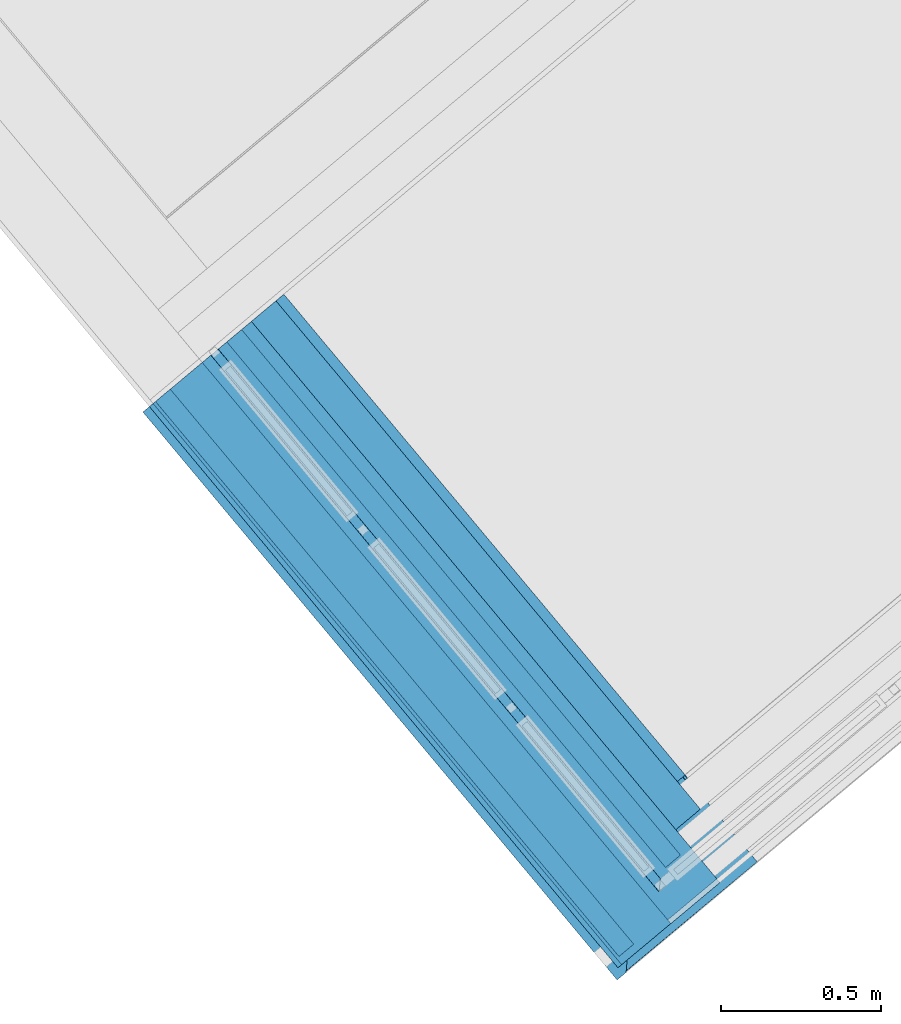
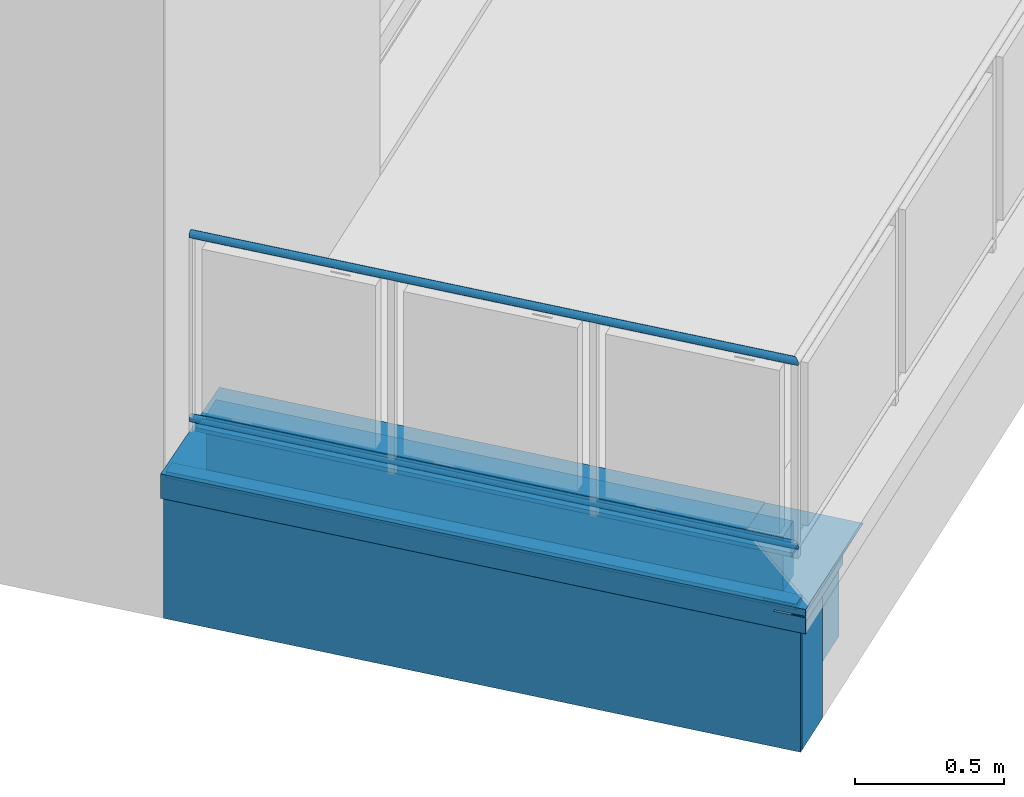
# One storey, part 16 of 53: 11 building element parts, 2 elements without a shape of their own.
"""IFC4 building model written with IfcOpenShell, lengths in metres."""

from ifc_helpers import new_model, entity, si_unit, converted_unit, derived_unit, direction, frame, origin_with_axes, place, context, subcontext, project, spatial, polygons, material, type_object, element, aggregate, save


model = new_model("IFC4")

# Units and contexts
model_context = context("Model", 3, precision=1e-05, world=origin_with_axes(), true_north=direction((0.0, 1.0)))
body_context = subcontext(model_context, "Body", "Model", "MODEL_VIEW")
ifc_project = project(units=[si_unit("LENGTHUNIT", "METRE"), si_unit("AREAUNIT", "SQUARE_METRE"), si_unit("VOLUMEUNIT", "CUBIC_METRE"), converted_unit("PLANEANGLEUNIT", "DEGREE", entity("IfcPlaneAngleMeasure", 0.0174532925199), si_unit("PLANEANGLEUNIT", "RADIAN"), dimensions=[0, 0, 0, 0, 0, 0, 0]), converted_unit("TIMEUNIT", "Year", entity("IfcTimeMeasure", 31556926.0), si_unit("TIMEUNIT", "SECOND"), dimensions=[0, 0, 1, 0, 0, 0, 0]), si_unit("MASSUNIT", "GRAM", prefix="KILO"), si_unit("THERMODYNAMICTEMPERATUREUNIT", "DEGREE_CELSIUS"), si_unit("LUMINOUSINTENSITYUNIT", "LUMEN"), si_unit("ENERGYUNIT", "JOULE", prefix="MEGA"), derived_unit("THERMALCONDUCTANCEUNIT", [(si_unit("POWERUNIT", "WATT"), 1), (si_unit("LENGTHUNIT", "METRE"), -1), (si_unit("THERMODYNAMICTEMPERATUREUNIT", "KELVIN"), -1)]), derived_unit("SPECIFICHEATCAPACITYUNIT", [(si_unit("ENERGYUNIT", "JOULE"), 1), (si_unit("MASSUNIT", "GRAM", prefix="KILO"), -1), (si_unit("THERMODYNAMICTEMPERATUREUNIT", "KELVIN"), -1)]), derived_unit("MASSDENSITYUNIT", [(si_unit("MASSUNIT", "GRAM", prefix="KILO"), 1), (si_unit("VOLUMEUNIT", "CUBIC_METRE"), -1)])], contexts=[model_context])

# Site, building, storey
site_placement = place(None, frame((-0.00153261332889, -0.00661245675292, 0.0), z_axis=(0.0, 0.0, 1.0), x_axis=(1.0, 0.0, 0.0)))
site = spatial("IfcSite", under=ifc_project, at=site_placement, Name="Gelände", CompositionType="ELEMENT")
building_placement = place(site_placement, origin_with_axes())
building = spatial("IfcBuilding", under=site, at=building_placement, Name="Gebäude", CompositionType="ELEMENT")
storey_placement = place(building_placement, frame((0.0, 0.0, 2.74), z_axis=(0.0, 0.0, 1.0), x_axis=(1.0, 0.0, 0.0)))
storey = spatial("IfcBuildingStorey", under=building, at=storey_placement, Name="OG1", CompositionType="ELEMENT", Elevation=2.74)

# Wall, building element parts
wall_type = type_object("IfcWallType", Name="Balkon Dämmung runter 574 x 610", PredefinedType="NOTDEFINED")
wall_placement = place(storey_placement, frame((-0.869246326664, 8.34153645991, -0.2), z_axis=(0.0, 0.0, 1.0), x_axis=(0.640952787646, -0.7675803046, 0.0)))
wall = element("IfcWall", 1, at=wall_placement, inside=storey, type_object=wall_type, Name="Wand-004", PredefinedType="NOTDEFINED")
ifc_material_1 = material(Name="Stahl")
building_element_part_1_placement = place(wall_placement, origin_with_axes())
building_element_part_1 = element("IfcBuildingElementPart", 2, at=building_element_part_1_placement, material=ifc_material_1, Name="Stahl", PredefinedType="NOTDEFINED", context=body_context, shape_type="Tessellation", body=[
    polygons([(2.31050672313, -0.241452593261, 0.608602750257), (2.3105274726, -0.241471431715, 0.581921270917), (2.31052209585, -0.24015106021, 0.581921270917), (2.31050652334, -0.240152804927, 0.608602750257), (2.31050872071, -0.24148595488, 0.575979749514), (2.30921429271, -0.241485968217, 0.575979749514), (2.25789575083, -0.241486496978, 0.575979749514), (2.19798147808, -0.241487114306, 0.575979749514), (2.19798147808, -0.241487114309, 0.57982217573), (2.19798147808, -0.24148711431, 0.581921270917), (2.25786387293, -0.241486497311, 0.581921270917), (2.30921468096, -0.241485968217, 0.581921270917), (2.31050328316, -0.24148595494, 0.581921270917), (2.30921643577, -0.241500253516, 0.608602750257), (2.30795035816, -0.241500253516, 0.608602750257), (2.30921643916, -0.241500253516, 0.608652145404), (2.31050672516, -0.241452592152, 0.608652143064), (2.31056389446, -0.241500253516, 0.610006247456), (0.0, -0.241500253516, 0.610006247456), (0.0, -0.241500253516, 0.510007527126), (2.31050570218, -0.241500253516, 0.510007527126), (2.31055711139, -0.241500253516, 0.510056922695), (2.31052888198, -0.241472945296, 0.575979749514), (2.30921407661, -0.240151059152, 0.581921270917), (2.30794974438, -0.240152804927, 0.608602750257), (2.30921582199, -0.240152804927, 0.608602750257), (2.25786326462, -0.240151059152, 0.581921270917), (2.19798086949, -0.240151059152, 0.581921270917), (2.19798086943, -0.240150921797, 0.57982217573), (2.19798086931, -0.240150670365, 0.575979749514), (2.25789514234, -0.240150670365, 0.575979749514), (2.30921368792, -0.240150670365, 0.575979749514), (2.31052556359, -0.240150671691, 0.575979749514), (2.31056327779, -0.240146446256, 0.51136132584), (0.0, -0.240146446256, 0.51136132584), (0.0, -0.240152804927, 0.608602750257), (2.30793269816, -0.202730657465, 0.608602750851), (2.3091994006, -0.204095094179, 0.60865214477), (2.31050098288, -0.204095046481, 0.608652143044), (0.0, 0.332051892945, 0.589243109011), (2.30711494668, -0.201849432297, 0.608570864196), (1.95543117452, 0.149654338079, 0.5958462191), (1.95534808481, 0.332051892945, 0.589243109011), (0.0, -0.240542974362, 0.509050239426), (0.0, 0.332051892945, 0.489652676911), (0.0, 0.331094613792, 0.488695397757), (0.0, 0.321878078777, 0.497911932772), (0.0, 0.32288233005, 0.498822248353), (0.0, 0.330698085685, 0.491006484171), (0.0, 0.330698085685, 0.587937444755), (0.0, -0.239276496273, 0.608570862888), (0.0, -0.232283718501, 0.519224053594), (0.0, -0.231373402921, 0.518219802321), (2.28285606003, -0.240542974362, 0.509050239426), (2.28285608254, -0.240592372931, 0.509099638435), (2.30960619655, -0.240592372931, 0.509099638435), (2.30960615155, -0.240493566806, 0.509099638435), (2.31055623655, -0.239536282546, 0.510056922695), (2.31056238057, -0.238182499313, 0.511410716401), (2.31056325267, -0.240097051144, 0.511410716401), (2.31054704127, -0.240083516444, 0.511410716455), (2.30920944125, -0.240097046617, 0.511410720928), (2.30139254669, -0.23228372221, 0.519224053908), (2.30713199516, -0.239276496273, 0.608570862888), (1.955448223, 0.11222723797, 0.5958462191), (1.9553487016, 0.330698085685, 0.587937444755), (1.95534808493, 0.332051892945, 0.587937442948), (1.9553480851, 0.332051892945, 0.586106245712), (1.9553480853, 0.332051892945, 0.584015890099), (1.95534808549, 0.332051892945, 0.581921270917), (1.95534808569, 0.332051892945, 0.579822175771), (1.95534808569, 0.332051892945, 0.575979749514), (1.95534808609, 0.332051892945, 0.575576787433), (1.95534808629, 0.332051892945, 0.573880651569), (1.95534808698, 0.332051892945, 0.567947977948), (1.95534808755, 0.332051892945, 0.560000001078), (1.95534809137, 0.332051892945, 0.519273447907), (1.95534809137, 0.332051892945, 0.519224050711), (1.95534809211, 0.332051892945, 0.511410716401), (1.95534809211, 0.332051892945, 0.51136132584), (1.95534809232, 0.332051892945, 0.509099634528), (1.95534809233, 0.332051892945, 0.509050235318), (1.95534809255, 0.332051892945, 0.506731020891), (1.95534809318, 0.332051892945, 0.499999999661), (1.95534809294, 0.332051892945, 0.498915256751), (1.95726264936, 0.332051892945, 0.498915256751), (1.95716963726, 0.332051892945, 0.498822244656), (1.95495156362, 0.332051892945, 0.496604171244), (1.96759522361, 0.332051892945, 0.496604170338), (1.96759522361, 0.332051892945, 0.491006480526), (1.96759522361, 0.332051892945, 0.489652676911), (1.96759565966, 0.331094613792, 0.488695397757), (1.96759671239, 0.328783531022, 0.491006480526), (1.9675992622, 0.323185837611, 0.496604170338), (1.9675998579, 0.32187807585, 0.497911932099), (1.96759940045, 0.322882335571, 0.498822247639), (1.96759839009, 0.325100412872, 0.496604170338), (1.96759584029, 0.330698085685, 0.491006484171), (1.96759584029, 0.330698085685, 0.496604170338), (1.95495218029, 0.330698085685, 0.496604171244), (1.95717025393, 0.330698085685, 0.498822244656), (1.95726326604, 0.330698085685, 0.498915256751), (1.95534870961, 0.330698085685, 0.498915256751), (1.95534870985, 0.330698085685, 0.499999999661), (1.95534870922, 0.330698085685, 0.506731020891), (1.955348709, 0.330698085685, 0.509050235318), (1.955348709, 0.330698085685, 0.509099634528), (1.95534870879, 0.330698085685, 0.51136132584), (1.95534870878, 0.330698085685, 0.511410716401), (1.95534870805, 0.330698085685, 0.519224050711), (1.95534870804, 0.330698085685, 0.519273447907), (1.95534870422, 0.330698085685, 0.560000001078), (1.95534870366, 0.330698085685, 0.567947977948), (1.95534870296, 0.330698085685, 0.573880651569), (1.95534870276, 0.330698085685, 0.575576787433), (1.95534870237, 0.330698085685, 0.575979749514), (1.95534870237, 0.330698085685, 0.579822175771), (1.95534870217, 0.330698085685, 0.581921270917), (1.95534870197, 0.330698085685, 0.584015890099), (1.95534870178, 0.330698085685, 0.586106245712), (2.30239638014, -0.23137340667, 0.518219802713), (2.30920856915, -0.238182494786, 0.511410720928), (2.28285603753, -0.240493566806, 0.509099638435)], [[[1, 2, 3, 4]], [[5, 6, 7, 8, 9, 10, 11, 12, 13, 2, 1, 14, 15, 16, 17, 18, 19, 20, 21, 22, 23]], [[13, 12, 24, 3, 2]], [[25, 26, 4, 3, 24, 27, 28, 29, 30, 31, 32, 33, 34, 35, 36]], [[14, 1, 4, 26]], [[6, 5, 23, 33, 32]], [[7, 6, 32, 31]], [[8, 7, 31, 30]], [[8, 30, 29, 9]], [[10, 9, 29, 28]], [[11, 10, 28, 27]], [[11, 27, 24, 12]], [[15, 14, 26, 25]], [[15, 25, 37, 38, 16]], [[17, 16, 38, 39]], [[18, 17, 39]], [[40, 19, 18, 39, 38, 37, 41, 42, 43]], [[44, 20, 19, 40, 45, 46, 47, 48, 49, 50, 51, 36, 35, 52, 53]], [[54, 55, 56, 21, 20, 44]], [[22, 21, 56, 57, 58]], [[23, 22, 58, 59, 60, 34, 33]], [[52, 35, 34, 60, 61, 62, 63]], [[64, 25, 36, 51]], [[25, 64, 41, 37]], [[41, 64, 65, 42]], [[42, 65, 66, 67, 43]], [[45, 40, 43, 67, 68, 69, 70, 71, 72, 73, 74, 75, 76, 77, 78, 79, 80, 81, 82, 83, 84, 85, 86, 87, 88, 89, 90, 91]], [[46, 45, 91, 92]], [[47, 46, 92, 93, 94, 95]], [[48, 47, 95, 96]], [[49, 48, 96, 97, 98]], [[50, 49, 98, 99, 100, 101, 102, 103, 104, 105, 106, 107, 108, 109, 110, 111, 112, 113, 114, 115, 116, 117, 118, 119, 120, 66]], [[64, 51, 50, 66, 65]], [[53, 52, 63, 121]], [[54, 44, 53, 121, 122, 59, 58, 57, 123]], [[55, 54, 123]], [[55, 123, 57, 56]], [[61, 60, 59, 122, 62]], [[62, 122, 121, 63]], [[66, 120, 68, 67]], [[120, 119, 69, 68]], [[119, 118, 70, 69]], [[118, 117, 71, 70]], [[117, 116, 72, 71]], [[116, 115, 73, 72]], [[115, 114, 74, 73]], [[114, 113, 75, 74]], [[113, 112, 76, 75]], [[112, 111, 77, 76]], [[111, 110, 78, 77]], [[110, 109, 79, 78]], [[109, 108, 80, 79]], [[108, 107, 81, 80]], [[107, 106, 82, 81]], [[106, 105, 83, 82]], [[105, 104, 84, 83]], [[104, 103, 85, 84]], [[85, 103, 102, 86]], [[102, 101, 87, 86]], [[100, 88, 87, 101]], [[88, 100, 99, 89]], [[98, 90, 89, 99]], [[98, 93, 92, 91, 90]], [[93, 98, 97, 94]], [[95, 94, 97, 96]]], closed=True),
])
ifc_material_2 = material(Name="Holzwerkstoff")
building_element_part_2_placement = place(wall_placement, origin_with_axes())
building_element_part_2 = element("IfcBuildingElementPart", 3, at=building_element_part_2_placement, material=ifc_material_2, Name="Holzwerkstoff", PredefinedType="NOTDEFINED", context=body_context, shape_type="Tessellation", body=[
    polygons([(0.0, -0.189984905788, 0.586106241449), (0.0, -0.239999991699, 0.587852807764), (0.0, -0.239276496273, 0.608570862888), (0.0, 0.330698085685, 0.587937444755), (0.0, 0.329999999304, 0.567947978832), (0.0, 0.160110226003, 0.573880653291), (0.0, 0.0999999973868, 0.575979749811), (0.0, -0.130124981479, 0.584015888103), (2.25781803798, -0.18998504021, 0.586106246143), (2.30785576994, -0.239999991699, 0.587852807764), (2.30785286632, -0.239997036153, 0.587937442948), (2.30757655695, -0.239720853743, 0.595846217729), (2.30713199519, -0.239276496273, 0.608570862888), (2.30741624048, 0.112227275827, 0.595846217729), (2.30759290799, 0.330698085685, 0.587937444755), (2.30759586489, 0.330695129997, 0.587852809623), (2.25758088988, 0.330634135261, 0.586106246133), (2.19772090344, 0.330561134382, 0.584015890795), (2.13773886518, 0.330487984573, 0.581921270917), (2.07762866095, 0.330414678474, 0.579822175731), (1.96759593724, 0.330280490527, 0.575979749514), (1.95605672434, 0.330266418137, 0.575576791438), (2.07765233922, 0.33026641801, 0.575576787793), (2.07766179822, 0.330207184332, 0.573880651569), (2.07769488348, 0.329999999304, 0.567947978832), (2.07773927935, 0.160110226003, 0.573880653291), (2.07775197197, 0.111539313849, 0.575576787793), (1.95615635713, 0.111539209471, 0.575576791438), (1.96770083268, 0.100000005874, 0.575979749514), (2.0777837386, -0.0100327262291, 0.579822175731), (2.13792135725, -0.0701429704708, 0.581921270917), (2.19793075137, -0.130125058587, 0.584015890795)], [[[1, 2, 3, 4, 5, 6, 7, 8]], [[9, 10, 2, 1]], [[10, 11, 12, 13, 3, 2]], [[3, 13, 14, 15, 4]], [[5, 4, 15, 16, 17, 18, 19, 20, 21, 22, 23, 24, 25]], [[6, 5, 25, 26]], [[7, 6, 26, 27, 28, 29]], [[8, 7, 29, 30, 31, 32]], [[9, 1, 8, 32]], [[10, 9, 17, 16]], [[11, 10, 16, 15]], [[12, 11, 15, 14]], [[12, 14, 13]], [[9, 32, 18, 17]], [[32, 31, 19, 18]], [[31, 30, 20, 19]], [[30, 29, 21, 20]], [[29, 28, 22, 21]], [[28, 27, 23, 22]], [[27, 26, 24, 23]], [[26, 25, 24]]], closed=True),
])
ifc_material_3 = material(Name="EPS 1")
building_element_part_3_placement = place(wall_placement, origin_with_axes())
building_element_part_3 = element("IfcBuildingElementPart", 4, at=building_element_part_3_placement, material=ifc_material_3, Name="EPS 1", PredefinedType="NOTDEFINED", context=body_context, shape_type="Tessellation", body=[
    polygons([(2.06765538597, 0.199999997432, 0.335), (0.0, 0.199999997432, 0.335), (0.0, 0.3, 0.335), (2.06760983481, 0.3, 0.335), (2.06765538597, 0.199999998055, 0.488695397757), (2.06765538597, 0.199999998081, 0.491006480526), (2.06765538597, 0.199999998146, 0.496604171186), (2.06765538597, 0.199999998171, 0.498822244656), (2.06765538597, 0.199999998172, 0.498915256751), (2.06765538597, 0.199999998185, 0.500000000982), (2.06765538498, 0.199999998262, 0.506731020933), (2.06765538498, 0.199999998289, 0.509050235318), (2.06765538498, 0.19999999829, 0.509099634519), (2.06765538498, 0.199999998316, 0.51136132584), (2.06765538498, 0.199999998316, 0.511410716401), (2.06765538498, 0.199999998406, 0.519224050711), (2.06765538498, 0.199999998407, 0.519273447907), (2.06765538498, 0.199999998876, 0.560000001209), (0.0, 0.2, 0.560000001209), (0.0, 0.3, 0.560000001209), (2.06760983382, 0.3, 0.560000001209), (2.06760983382, 0.3, 0.519273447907), (2.06760983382, 0.3, 0.519224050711), (2.06760983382, 0.3, 0.511410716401), (2.06760983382, 0.3, 0.51136132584), (2.06760983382, 0.3, 0.509099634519), (2.06760983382, 0.3, 0.509050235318), (2.06760983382, 0.3, 0.506731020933), (2.06760983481, 0.3, 0.500000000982), (2.06760983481, 0.3, 0.498915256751), (2.06760983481, 0.3, 0.498822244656), (2.06760983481, 0.3, 0.496604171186), (2.06760983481, 0.3, 0.491006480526), (2.06760983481, 0.3, 0.488695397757)], [[[1, 2, 3, 4]], [[1, 5, 6, 7, 8, 9, 10, 11, 12, 13, 14, 15, 16, 17, 18, 19, 2]], [[2, 19, 20, 3]], [[3, 20, 21, 22, 23, 24, 25, 26, 27, 28, 29, 30, 31, 32, 33, 34, 4]], [[5, 1, 4, 34]], [[6, 5, 34, 33]], [[7, 6, 33, 32]], [[8, 7, 32, 31]], [[9, 8, 31, 30]], [[10, 9, 30, 29]], [[11, 10, 29, 28]], [[12, 11, 28, 27]], [[13, 12, 27, 26]], [[14, 13, 26, 25]], [[15, 14, 25, 24]], [[16, 15, 24, 23]], [[17, 16, 23, 22]], [[18, 17, 22, 21]], [[19, 18, 21, 20]]], closed=True),
])
ifc_material_4 = material(Name="Vollholz")
building_element_part_4_placement = place(wall_placement, origin_with_axes())
building_element_part_4 = element("IfcBuildingElementPart", 5, at=building_element_part_4_placement, material=ifc_material_4, Name="Vollholz", PredefinedType="NOTDEFINED", context=body_context, shape_type="Tessellation", body=[
    polygons([(0.0, 0.1, 0.560000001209), (2.13784385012, 0.1, 0.560000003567), (2.13784385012, 0.1, 0.567947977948), (2.13784385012, 0.1, 0.573880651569), (2.13784385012, 0.1, 0.575576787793), (2.13784385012, 0.1, 0.575979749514), (0.0, 0.1, 0.575979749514), (0.0, 0.16, 0.560000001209), (2.13781651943, 0.160000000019, 0.560000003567), (2.13781649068, 0.160063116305, 0.567947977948), (2.13781646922, 0.160110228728, 0.573880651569), (2.13783859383, 0.11153931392, 0.575576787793), (0.0, 0.160110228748, 0.573880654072)], [[[1, 2, 3, 4, 5, 6, 7]], [[2, 1, 8, 9]], [[3, 2, 9, 10]], [[4, 3, 10, 11]], [[5, 4, 11, 12]], [[6, 5, 12]], [[7, 6, 12, 11, 13]], [[7, 13, 8, 1]], [[8, 13, 11, 10, 9]]], closed=True),
])
ifc_material_5 = material(Name="Stahlbeton")
building_element_part_5_placement = place(wall_placement, origin_with_axes())
building_element_part_5 = element("IfcBuildingElementPart", 6, at=building_element_part_5_placement, material=ifc_material_5, Name="Stahlbeton", PredefinedType="NOTDEFINED", context=body_context, shape_type="Tessellation", body=[
    polygons([(2.26774647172, -2.73519251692e-09, 0.500000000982), (2.26765536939, 0.199999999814, 0.500000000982), (0.0, 0.199999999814, 0.500000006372), (0.0, -2.73518896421e-09, 0.499999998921), (2.26765536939, 0.199999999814, 0.498915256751), (2.26774647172, -2.73518718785e-09, 0.498915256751), (2.26765536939, 0.199999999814, 0.498822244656), (2.26765536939, 0.199999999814, 0.496604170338), (2.26765536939, 0.199999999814, 0.491006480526), (2.26765536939, 0.199999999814, 0.488695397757), (2.26765536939, 0.199999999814, 0.334999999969), (0.0, 0.199999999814, 0.334999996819), (0.0, 0.199999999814, 0.200000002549), (0.0, -2.73518896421e-09, 0.200000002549), (2.26774647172, -2.73519074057e-09, 0.2), (2.26774647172, -2.73518896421e-09, 0.334999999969), (2.26774647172, -2.73518896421e-09, 0.488695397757), (2.26774647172, -2.73518896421e-09, 0.491006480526), (2.26774647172, -2.73518718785e-09, 0.496604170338), (2.26774647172, -2.73518896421e-09, 0.498822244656), (2.26765536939, 0.199999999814, 0.2)], [[[1, 2, 3, 4]], [[5, 2, 1, 6]], [[2, 5, 7, 8, 9, 10, 11, 12, 3]], [[4, 3, 12, 13, 14]], [[6, 1, 4, 14, 15, 16, 17, 18, 19, 20]], [[5, 6, 20, 7]], [[7, 20, 19, 8]], [[8, 19, 18, 9]], [[9, 18, 17, 10]], [[10, 17, 16, 11]], [[11, 21, 13, 12]], [[21, 15, 14, 13]], [[11, 16, 15, 21]]], closed=True),
])
ifc_material_6 = material(Name="Brettschichtholz")
building_element_part_6_placement = place(wall_placement, origin_with_axes())
building_element_part_6 = element("IfcBuildingElementPart", 7, at=building_element_part_6_placement, material=ifc_material_6, Name="Brettschichtholz", PredefinedType="NOTDEFINED", context=body_context, shape_type="Tessellation", body=[
    polygons([(0.0, -0.214999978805, 0.500000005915), (2.2828444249, -0.214999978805, 0.500000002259), (2.2828444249, -0.214999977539, 0.509099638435), (2.2828444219, -0.214999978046, 0.51136132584), (2.2828444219, -0.214999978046, 0.511410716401), (2.2828444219, -0.214999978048, 0.519224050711), (2.2828444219, -0.214999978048, 0.519273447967), (2.28284442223, -0.214999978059, 0.560000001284), (0.0, -0.214999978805, 0.560000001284), (0.0, 0.199999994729, 0.500000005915), (2.28265538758, 0.199999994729, 0.500000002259), (2.28265538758, 0.199999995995, 0.509099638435), (2.28265538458, 0.199999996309, 0.51136132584), (2.28265538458, 0.199999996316, 0.511410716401), (2.28265538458, 0.199999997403, 0.519224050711), (2.28265538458, 0.19999999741, 0.519273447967), (2.28265538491, 0.200000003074, 0.560000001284), (2.28267360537, 0.160000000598, 0.560000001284), (2.28270093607, 0.100000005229, 0.560000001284), (2.28280576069, -0.130124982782, 0.560000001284), (2.28283309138, -0.190124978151, 0.560000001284), (0.0, -0.190124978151, 0.560000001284), (0.0, -0.130124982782, 0.560000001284), (0.0, 0.100000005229, 0.560000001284), (0.0, 0.160000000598, 0.560000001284), (0.0, 0.200000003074, 0.560000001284)], [[[1, 2, 3, 4, 5, 6, 7, 8, 9]], [[2, 1, 10, 11]], [[3, 2, 11, 12]], [[3, 12, 13, 4]], [[5, 4, 13, 14]], [[6, 5, 14, 15]], [[7, 6, 15, 16]], [[8, 7, 16, 17, 18, 19, 20, 21]], [[9, 8, 21, 22]], [[1, 9, 22, 23, 24, 25, 26, 10]], [[10, 26, 17, 16, 15, 14, 13, 12, 11]], [[26, 25, 18, 17]], [[25, 24, 19, 18]], [[24, 23, 20, 19]], [[23, 22, 21, 20]]], closed=True),
])
building_element_part_7_placement = place(wall_placement, origin_with_axes())
building_element_part_7 = element("IfcBuildingElementPart", 8, at=building_element_part_7_placement, material=ifc_material_3, Name="EPS 1", PredefinedType="NOTDEFINED", context=body_context, shape_type="Tessellation", body=[
    polygons([(2.28283759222, -0.19999996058, 0.500000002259), (2.28274648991, -2.90217805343e-09, 0.500000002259), (0.0, -2.90217716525e-09, 0.500000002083), (0.0, -0.19999996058, 0.499999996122), (2.28274648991, -2.73519074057e-09, 0.200000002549), (2.28283759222, -0.19999996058, 0.0), (2.28274648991, -2.90217894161e-09, 0.0), (0.0, -2.73518896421e-09, 0.200000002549), (0.0, -0.19999996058, 0.0), (0.0, -2.90217716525e-09, 0.0)], [[[1, 2, 3, 4]], [[5, 2, 1, 6, 7]], [[2, 5, 8, 3]], [[9, 4, 3, 8, 10]], [[6, 1, 4, 9]], [[7, 6, 9, 10]], [[5, 7, 10, 8]]], closed=True),
])
building_element_part_8_placement = place(wall_placement, origin_with_axes())
building_element_part_8 = element("IfcBuildingElementPart", 9, at=building_element_part_8_placement, material=ifc_material_4, Name="Vollholz", PredefinedType="NOTDEFINED", context=body_context, shape_type="Tessellation", body=[
    polygons([(2.25781803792, -0.189984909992, 0.586106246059), (2.25780190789, -0.130124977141, 0.584015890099), (0.0, -0.130124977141, 0.584015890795), (0.0, -0.189984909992, 0.586106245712), (2.2578291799, -0.189996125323, 0.584015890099), (2.25781314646, -0.130124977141, 0.581921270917), (2.19793074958, -0.130124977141, 0.581921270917), (2.13794867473, -0.130124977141, 0.581921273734), (2.13794867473, -0.130124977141, 0.57982217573), (2.13794867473, -0.130124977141, 0.575979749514), (2.19793074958, -0.130124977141, 0.575979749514), (2.25784502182, -0.130124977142, 0.575979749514), (2.25784718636, -0.130124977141, 0.575576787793), (2.25785628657, -0.130124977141, 0.573880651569), (2.25788811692, -0.130124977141, 0.567947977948), (2.25793075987, -0.130124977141, 0.560000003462), (0.0, -0.130124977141, 0.560000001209), (0.0, -0.190124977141, 0.560000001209), (2.25795809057, -0.190124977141, 0.560000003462), (2.25791542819, -0.19008233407, 0.567947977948), (2.25788358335, -0.190050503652, 0.573880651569), (2.25787447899, -0.190041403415, 0.575576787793), (2.25787231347, -0.190039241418, 0.575979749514), (2.19795804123, -0.190039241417, 0.575979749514), (2.13797596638, -0.190039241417, 0.575979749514), (2.13797595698, -0.190018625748, 0.57982217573), (2.13797595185, -0.190007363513, 0.581921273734), (2.19795802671, -0.190007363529, 0.581921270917), (2.25784042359, -0.190007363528, 0.581921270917)], [[[1, 2, 3, 4]], [[5, 2, 1]], [[2, 6, 7, 8, 9, 10, 11, 12, 13, 14, 15, 16, 17, 3]], [[17, 18, 4, 3]], [[5, 1, 4, 18, 19, 20, 21, 22, 23, 24, 25, 26, 27, 28, 29]], [[2, 5, 29, 6]], [[6, 29, 28, 7]], [[8, 7, 28, 27]], [[9, 8, 27, 26]], [[9, 26, 25, 10]], [[24, 11, 10, 25]], [[11, 24, 23, 12]], [[12, 23, 22, 13]], [[13, 22, 21, 14]], [[14, 21, 20, 15]], [[15, 20, 19, 16]], [[16, 19, 18, 17]]], closed=True),
])
ifc_material_7 = material(Name="Zementputz")
building_element_part_9_placement = place(wall_placement, origin_with_axes())
building_element_part_9 = element("IfcBuildingElementPart", 10, at=building_element_part_9_placement, material=ifc_material_7, Name="Zementputz", PredefinedType="NOTDEFINED", context=body_context, shape_type="Tessellation", body=[
    polygons([(2.2828444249, -0.214999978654, 0.500000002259), (2.28283759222, -0.19999996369, 0.500000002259), (0.0, -0.19999996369, 0.499999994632), (0.0, -0.214999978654, 0.500000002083), (2.28283759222, -0.19999996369, 0.0), (2.2828444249, -0.214999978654, 0.0), (0.0, -0.19999996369, 0.0), (0.0, -0.214999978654, 0.0)], [[[1, 2, 3, 4]], [[5, 2, 1, 6]], [[2, 5, 7, 3]], [[4, 3, 7, 8]], [[6, 1, 4, 8]], [[5, 6, 8, 7]]], closed=True),
])
aggregate(wall, [building_element_part_1, building_element_part_2, building_element_part_3, building_element_part_4, building_element_part_5, building_element_part_6, building_element_part_7, building_element_part_8, building_element_part_9])

# Space
space_placement = place(storey_placement, frame((5.82112883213, 13.939405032, 0.22), z_axis=(0.0, 0.0, 1.0), x_axis=(-0.766948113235, -0.641709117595, 0.0)))
space = spatial("IfcSpace", under=storey, at=space_placement, CompositionType="ELEMENT", PredefinedType="NOTDEFINED")

# Railing, building element parts
railing_type = type_object("IfcRailingType", Name="Geländerart", PredefinedType="NOTDEFINED")
railing_placement = place(space_placement, frame((8.7233739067, 0.0, 0.16), z_axis=(0.0, 0.0, 1.0), x_axis=(-0.766948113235, 0.641709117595, 0.0)))
railing = element("IfcRailing", 11, at=railing_placement, inside=space, type_object=railing_type, Name="Geländer - 001", PredefinedType="NOTDEFINED")
ifc_material_8 = material(Name="Aluminium")
building_element_part_10_placement = place(railing_placement, origin_with_axes())
building_element_part_10 = element("IfcBuildingElementPart", 12, at=building_element_part_10_placement, material=ifc_material_8, Name="Aluminium", PredefinedType="NOTDEFINED", context=body_context, shape_type="Tessellation", body=[
    polygons([(0.049861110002, 0.0416997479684, 0.825), (0.0496861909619, 0.0415536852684, 0.827604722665), (1.43042846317, -1.61196985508, 0.827604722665), (1.43045725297, -1.61164879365, 0.825), (0.0496861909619, 0.0415536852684, 0.822395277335), (0.0491667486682, 0.0411199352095, 0.81986969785), (0.0483185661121, 0.0404116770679, 0.8175), (0.0471674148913, 0.0394504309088, 0.815358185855), (0.0457482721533, 0.0382654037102, 0.813509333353), (0.0441042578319, 0.0368926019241, 0.812009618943), (0.0422853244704, 0.0353737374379, 0.810904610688), (0.0403467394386, 0.0337549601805, 0.810227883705), (0.0383474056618, 0.0320854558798, 0.81), (0.0363480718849, 0.030415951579, 0.810227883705), (0.0344094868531, 0.0287971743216, 0.810904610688), (0.0325905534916, 0.0272783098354, 0.812009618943), (0.0309465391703, 0.0259055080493, 0.813509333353), (0.0295273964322, 0.0247204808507, 0.815358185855), (0.0283762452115, 0.0237592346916, 0.8175), (0.0275280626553, 0.02305097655, 0.81986969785), (0.0270086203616, 0.0226172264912, 0.822395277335), (0.0268337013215, 0.0224711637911, 0.825), (0.0270086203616, 0.0226172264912, 0.827604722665), (0.0275280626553, 0.02305097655, 0.83013030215), (0.0283762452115, 0.0237592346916, 0.8325), (0.0295273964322, 0.0247204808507, 0.834641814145), (0.0309465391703, 0.0259055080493, 0.836490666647), (0.0325905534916, 0.0272783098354, 0.837990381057), (0.0344094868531, 0.0287971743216, 0.839095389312), (0.0363480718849, 0.030415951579, 0.839772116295), (0.0383474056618, 0.0320854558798, 0.84), (0.0403467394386, 0.0337549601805, 0.839772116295), (0.0422853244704, 0.0353737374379, 0.839095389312), (0.0441042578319, 0.0368926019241, 0.837990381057), (0.0457482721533, 0.0382654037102, 0.836490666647), (0.0471674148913, 0.0394504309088, 0.834641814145), (0.0483185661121, 0.0404116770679, 0.8325), (0.0491667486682, 0.0411199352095, 0.83013030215), (1.43034296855, -1.61292328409, 0.83013030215), (1.43020336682, -1.61448011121, 0.8325), (1.43001389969, -1.61659303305, 0.834641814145), (1.42978032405, -1.61919784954, 0.836490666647), (1.42950973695, -1.62221541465, 0.837990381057), (1.42921036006, -1.62555404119, 0.839095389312), (1.42889128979, -1.62911228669, 0.839772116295), (1.42856222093, -1.63278203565, 0.84), (1.42823315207, -1.63645178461, 0.839772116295), (1.4279140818, -1.64001003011, 0.839095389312), (1.42761470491, -1.64334865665, 0.837990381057), (1.42734411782, -1.64636622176, 0.836490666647), (1.42711054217, -1.64897103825, 0.834641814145), (1.42692107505, -1.65108396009, 0.8325), (1.42678147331, -1.65264078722, 0.83013030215), (1.42669597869, -1.65359421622, 0.827604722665), (1.42666718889, -1.65391527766, 0.825), (1.42669597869, -1.65359421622, 0.822395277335), (1.42678147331, -1.65264078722, 0.81986969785), (1.42692107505, -1.65108396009, 0.8175), (1.42711054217, -1.64897103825, 0.815358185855), (1.42734411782, -1.64636622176, 0.813509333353), (1.42761470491, -1.64334865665, 0.812009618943), (1.4279140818, -1.64001003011, 0.810904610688), (1.42823315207, -1.63645178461, 0.810227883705), (1.42856222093, -1.63278203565, 0.81), (1.42889128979, -1.62911228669, 0.810227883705), (1.42921036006, -1.62555404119, 0.810904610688), (1.42950973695, -1.62221541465, 0.812009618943), (1.42978032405, -1.61919784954, 0.813509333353), (1.43001389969, -1.61659303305, 0.815358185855), (1.43020336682, -1.61448011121, 0.8175), (1.43034296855, -1.61292328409, 0.81986969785), (1.43042846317, -1.61196985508, 0.822395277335)], [[[1, 2, 3, 4]], [[1, 5, 6, 7, 8, 9, 10, 11, 12, 13, 14, 15, 16, 17, 18, 19, 20, 21, 22, 23, 24, 25, 26, 27, 28, 29, 30, 31, 32, 33, 34, 35, 36, 37, 38, 2]], [[2, 38, 39, 3]], [[4, 3, 39, 40, 41, 42, 43, 44, 45, 46, 47, 48, 49, 50, 51, 52, 53, 54, 55, 56, 57, 58, 59, 60, 61, 62, 63, 64, 65, 66, 67, 68, 69, 70, 71, 72]], [[5, 1, 4, 72]], [[6, 5, 72, 71]], [[7, 6, 71, 70]], [[8, 7, 70, 69]], [[9, 8, 69, 68]], [[10, 9, 68, 67]], [[11, 10, 67, 66]], [[12, 11, 66, 65]], [[13, 12, 65, 64]], [[14, 13, 64, 63]], [[15, 14, 63, 62]], [[16, 15, 62, 61]], [[17, 16, 61, 60]], [[18, 17, 60, 59]], [[19, 18, 59, 58]], [[20, 19, 58, 57]], [[21, 20, 57, 56]], [[22, 21, 56, 55]], [[23, 22, 55, 54]], [[24, 23, 54, 53]], [[25, 24, 53, 52]], [[26, 25, 52, 51]], [[27, 26, 51, 50]], [[28, 27, 50, 49]], [[29, 28, 49, 48]], [[30, 29, 48, 47]], [[31, 30, 47, 46]], [[32, 31, 46, 45]], [[33, 32, 45, 44]], [[34, 33, 44, 43]], [[35, 34, 43, 42]], [[36, 35, 42, 41]], [[37, 36, 41, 40]], [[38, 37, 40, 39]]], closed=True),
])
building_element_part_11_placement = place(railing_placement, origin_with_axes())
building_element_part_11 = element("IfcBuildingElementPart", 13, at=building_element_part_11_placement, material=ifc_material_8, Name="Aluminium", PredefinedType="NOTDEFINED", context=body_context, shape_type="Tessellation", body=[
    polygons([(0.049861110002, 0.0416997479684, 0.07), (0.0496861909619, 0.0415536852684, 0.072604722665), (1.43042846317, -1.61196985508, 0.072604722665), (1.43045725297, -1.61164879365, 0.07), (0.0496861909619, 0.0415536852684, 0.067395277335), (0.0491667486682, 0.0411199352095, 0.0648696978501), (0.0483185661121, 0.0404116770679, 0.0625), (0.0471674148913, 0.0394504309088, 0.0603581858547), (0.0457482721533, 0.0382654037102, 0.0585093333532), (0.0441042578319, 0.0368926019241, 0.0570096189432), (0.0422853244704, 0.0353737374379, 0.0559046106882), (0.0403467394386, 0.0337549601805, 0.0552278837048), (0.0383474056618, 0.0320854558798, 0.055), (0.0363480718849, 0.030415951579, 0.0552278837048), (0.0344094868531, 0.0287971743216, 0.0559046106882), (0.0325905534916, 0.0272783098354, 0.0570096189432), (0.0309465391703, 0.0259055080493, 0.0585093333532), (0.0295273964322, 0.0247204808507, 0.0603581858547), (0.0283762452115, 0.0237592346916, 0.0625), (0.0275280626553, 0.02305097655, 0.0648696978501), (0.0270086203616, 0.0226172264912, 0.067395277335), (0.0268337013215, 0.0224711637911, 0.07), (0.0270086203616, 0.0226172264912, 0.072604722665), (0.0275280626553, 0.02305097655, 0.0751303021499), (0.0283762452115, 0.0237592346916, 0.0775), (0.0295273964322, 0.0247204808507, 0.0796418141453), (0.0309465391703, 0.0259055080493, 0.0814906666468), (0.0325905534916, 0.0272783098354, 0.0829903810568), (0.0344094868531, 0.0287971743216, 0.0840953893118), (0.0363480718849, 0.030415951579, 0.0847721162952), (0.0383474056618, 0.0320854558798, 0.085), (0.0403467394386, 0.0337549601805, 0.0847721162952), (0.0422853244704, 0.0353737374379, 0.0840953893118), (0.0441042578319, 0.0368926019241, 0.0829903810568), (0.0457482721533, 0.0382654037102, 0.0814906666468), (0.0471674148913, 0.0394504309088, 0.0796418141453), (0.0483185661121, 0.0404116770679, 0.0775), (0.0491667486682, 0.0411199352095, 0.0751303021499), (1.43034296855, -1.61292328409, 0.0751303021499), (1.43020336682, -1.61448011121, 0.0775), (1.43001389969, -1.61659303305, 0.0796418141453), (1.42978032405, -1.61919784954, 0.0814906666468), (1.42950973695, -1.62221541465, 0.0829903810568), (1.42921036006, -1.62555404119, 0.0840953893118), (1.42889128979, -1.62911228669, 0.0847721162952), (1.42856222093, -1.63278203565, 0.085), (1.42823315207, -1.63645178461, 0.0847721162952), (1.4279140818, -1.64001003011, 0.0840953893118), (1.42761470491, -1.64334865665, 0.0829903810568), (1.42734411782, -1.64636622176, 0.0814906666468), (1.42711054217, -1.64897103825, 0.0796418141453), (1.42692107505, -1.65108396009, 0.0775), (1.42678147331, -1.65264078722, 0.0751303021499), (1.42669597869, -1.65359421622, 0.072604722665), (1.42666718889, -1.65391527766, 0.07), (1.42669597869, -1.65359421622, 0.067395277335), (1.42678147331, -1.65264078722, 0.0648696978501), (1.42692107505, -1.65108396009, 0.0625), (1.42711054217, -1.64897103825, 0.0603581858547), (1.42734411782, -1.64636622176, 0.0585093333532), (1.42761470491, -1.64334865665, 0.0570096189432), (1.4279140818, -1.64001003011, 0.0559046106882), (1.42823315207, -1.63645178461, 0.0552278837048), (1.42856222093, -1.63278203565, 0.055), (1.42889128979, -1.62911228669, 0.0552278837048), (1.42921036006, -1.62555404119, 0.0559046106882), (1.42950973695, -1.62221541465, 0.0570096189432), (1.42978032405, -1.61919784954, 0.0585093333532), (1.43001389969, -1.61659303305, 0.0603581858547), (1.43020336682, -1.61448011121, 0.0625), (1.43034296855, -1.61292328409, 0.0648696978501), (1.43042846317, -1.61196985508, 0.067395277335)], [[[1, 2, 3, 4]], [[1, 5, 6, 7, 8, 9, 10, 11, 12, 13, 14, 15, 16, 17, 18, 19, 20, 21, 22, 23, 24, 25, 26, 27, 28, 29, 30, 31, 32, 33, 34, 35, 36, 37, 38, 2]], [[2, 38, 39, 3]], [[4, 3, 39, 40, 41, 42, 43, 44, 45, 46, 47, 48, 49, 50, 51, 52, 53, 54, 55, 56, 57, 58, 59, 60, 61, 62, 63, 64, 65, 66, 67, 68, 69, 70, 71, 72]], [[5, 1, 4, 72]], [[6, 5, 72, 71]], [[7, 6, 71, 70]], [[8, 7, 70, 69]], [[9, 8, 69, 68]], [[10, 9, 68, 67]], [[11, 10, 67, 66]], [[12, 11, 66, 65]], [[13, 12, 65, 64]], [[14, 13, 64, 63]], [[15, 14, 63, 62]], [[16, 15, 62, 61]], [[17, 16, 61, 60]], [[18, 17, 60, 59]], [[19, 18, 59, 58]], [[20, 19, 58, 57]], [[21, 20, 57, 56]], [[22, 21, 56, 55]], [[23, 22, 55, 54]], [[24, 23, 54, 53]], [[25, 24, 53, 52]], [[26, 25, 52, 51]], [[27, 26, 51, 50]], [[28, 27, 50, 49]], [[29, 28, 49, 48]], [[30, 29, 48, 47]], [[31, 30, 47, 46]], [[32, 31, 46, 45]], [[33, 32, 45, 44]], [[34, 33, 44, 43]], [[35, 34, 43, 42]], [[36, 35, 42, 41]], [[37, 36, 41, 40]], [[38, 37, 40, 39]]], closed=True),
])
aggregate(railing, [building_element_part_10, building_element_part_11])

save(model, "model.ifc")
